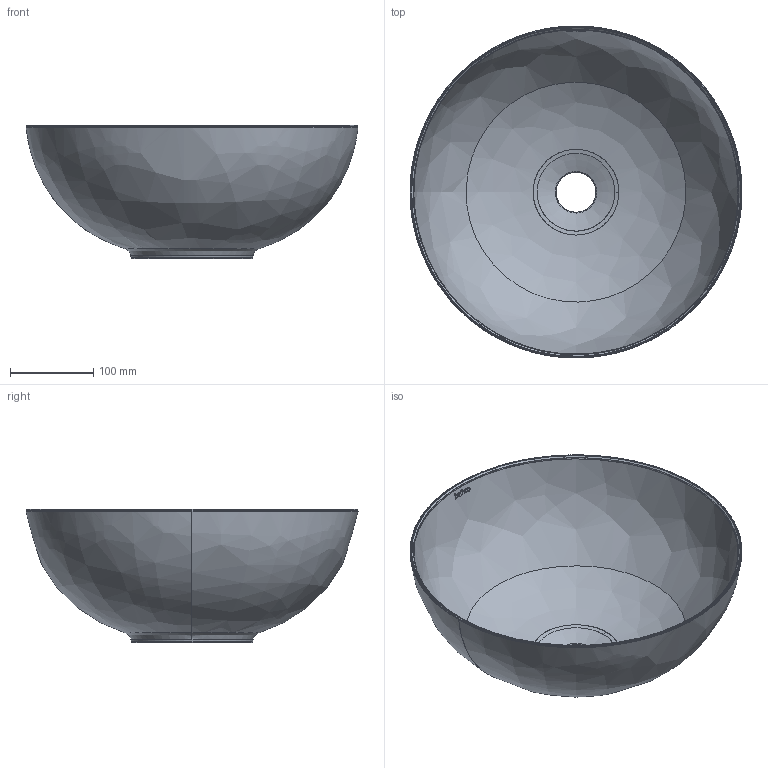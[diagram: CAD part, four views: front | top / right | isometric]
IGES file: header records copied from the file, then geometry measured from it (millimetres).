
Global section: file name: C:\Users\User\Desktop\Lavabos 3D\Ribera\Ribera.igs; native system: Rhinoceros ( Feb 26 2015 ); preprocessor: Trout Lake IGES 012 Feb 26 2015; date: 191022.045021; units: millimetre
Bounding box: 399.54 x 399.56 x 160.16 mm (x, y, z)
Surface area: 431865.5 mm2 (no closed solid volume)
Topology: 0 solids, 0 shells, 219 faces, 1515 edges, 1493 vertices
Faces by surface type: bspline 219
